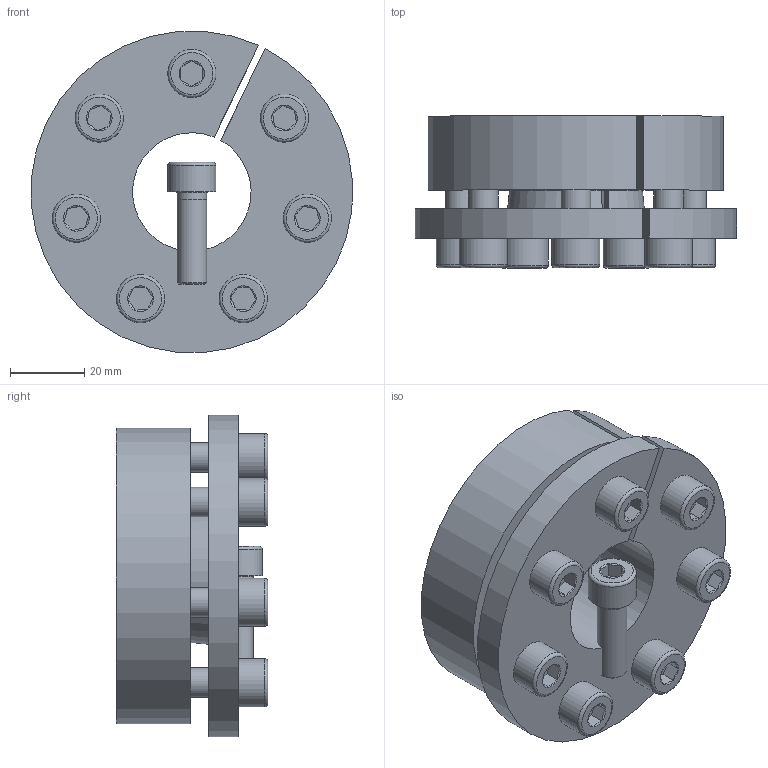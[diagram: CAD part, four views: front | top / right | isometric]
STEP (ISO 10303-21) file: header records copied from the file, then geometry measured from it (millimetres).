
FILE_DESCRIPTION( ( 'Unknown' ), '1' );
FILE_NAME( 'C:/Dokumente und Einstellungen/Sven/Desktop/15/KBS 15 - 32 x 80.stp', 'Unknown', ( 'Unknown' ), ( 'Unknown' ), 'XStep 1.0', 'Unknown', ' ' );
FILE_SCHEMA( ( 'automotive_design' ) );
Length unit declared in the file: millimetre
Products named in the file (3): Assem1; ISO EN DIN 4762 M8x25_15; KBS 15 - 32 x 80_0
Bounding box: 86.78 x 41 x 86.75 mm (x, y, z)
Volume: 251262 mm3; surface area: 77614.8 mm2
Topology: 10 solids, 10 shells, 252 faces, 524 edges, 324 vertices
Faces by surface type: plane 110, cylinder 66, cone 60, torus 16
Full cylindrical faces by diameter (mm): 6.647 x14, 7 x8, 8 x16, 9 x14, 13 x8
Entity records: 1696 total; most frequent: CARTESIAN_POINT 278, DIRECTION 258, ORIENTED_EDGE 186, AXIS2_PLACEMENT_3D 115, EDGE_LOOP 104, EDGE_CURVE 93, FACE_OUTER_BOUND 71, VERTEX_POINT 71
